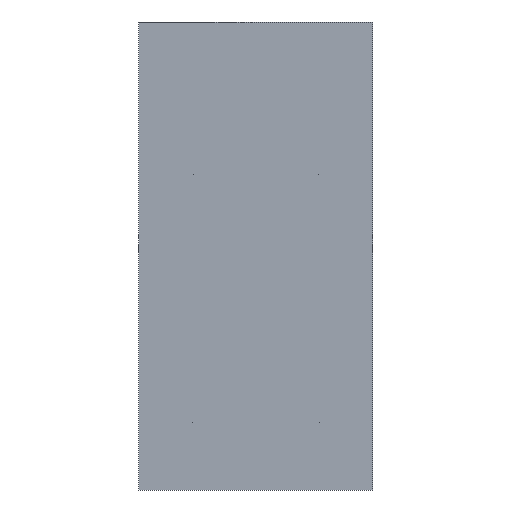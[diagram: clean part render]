
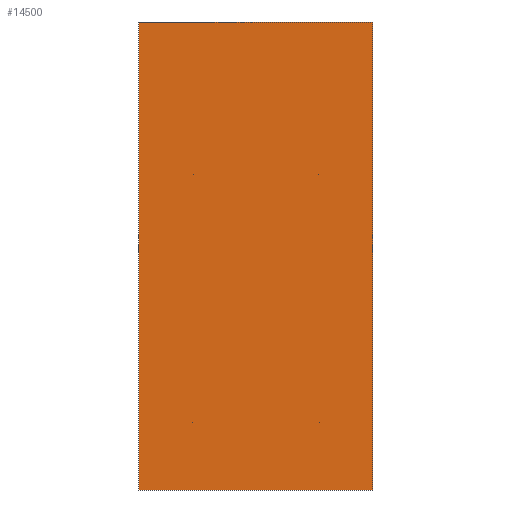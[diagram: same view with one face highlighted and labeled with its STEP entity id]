
A CAD part, front view. The second image highlights one B-rep face of the part: STEP entity #14500.
In plain terms, the highlighted planar face has unit normal (0, -1, 0).
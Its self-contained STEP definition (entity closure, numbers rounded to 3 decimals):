
#875 = CARTESIAN_POINT ( 'NONE',  ( -914.4, 0., 457.2 ) ) ;
#1194 = EDGE_CURVE ( 'NONE', #4532, #1458, #13513, .T. ) ;
#1458 = VERTEX_POINT ( 'NONE', #875 ) ;
#2145 = DIRECTION ( 'NONE',  ( 0., 0., -1. ) ) ;
#3543 = CARTESIAN_POINT ( 'NONE',  ( 914.4, 0., 457.2 ) ) ;
#4139 = VERTEX_POINT ( 'NONE', #17369 ) ;
#4532 = VERTEX_POINT ( 'NONE', #15601 ) ;
#5806 = EDGE_CURVE ( 'NONE', #1458, #14355, #7857, .T. ) ;
#5830 = DIRECTION ( 'NONE',  ( 0., 0., 1. ) ) ;
#6035 = FACE_OUTER_BOUND ( 'NONE', #6391, .T. ) ;
#6391 = EDGE_LOOP ( 'NONE', ( #10266, #15100, #16726, #17957 ) ) ;
#6811 = VECTOR ( 'NONE', #5830, 1000. ) ;
#6957 = CARTESIAN_POINT ( 'NONE',  ( -914.4, 0., 457.2 ) ) ;
#7168 = CARTESIAN_POINT ( 'NONE',  ( 0., 0., 0. ) ) ;
#7175 = LINE ( 'NONE', #3543, #15333 ) ;
#7857 = LINE ( 'NONE', #9478, #11970 ) ;
#7948 = EDGE_CURVE ( 'NONE', #14355, #4139, #7175, .T. ) ;
#8083 = AXIS2_PLACEMENT_3D ( 'NONE', #7168, #8601, #14276 ) ;
#8601 = DIRECTION ( 'NONE',  ( 0., -1., 0. ) ) ;
#9478 = CARTESIAN_POINT ( 'NONE',  ( -914.4, 0., 457.2 ) ) ;
#10266 = ORIENTED_EDGE ( 'NONE', *, *, #7948, .F. ) ;
#10409 = EDGE_CURVE ( 'NONE', #4139, #4532, #11391, .T. ) ;
#11231 = CARTESIAN_POINT ( 'NONE',  ( 914.4, 0., 457.2 ) ) ;
#11391 = LINE ( 'NONE', #14187, #16820 ) ;
#11754 = PLANE ( 'NONE',  #8083 ) ;
#11970 = VECTOR ( 'NONE', #12164, 1000. ) ;
#12164 = DIRECTION ( 'NONE',  ( 1., 0., 0. ) ) ;
#12793 = DIRECTION ( 'NONE',  ( -1., 0., 0. ) ) ;
#13513 = LINE ( 'NONE', #6957, #6811 ) ;
#14187 = CARTESIAN_POINT ( 'NONE',  ( -914.4, 0., -457.2 ) ) ;
#14276 = DIRECTION ( 'NONE',  ( 0., 0., -1. ) ) ;
#14355 = VERTEX_POINT ( 'NONE', #11231 ) ;
#14500 = ADVANCED_FACE ( 'NONE', ( #6035 ), #11754, .T. ) ;
#15100 = ORIENTED_EDGE ( 'NONE', *, *, #5806, .F. ) ;
#15333 = VECTOR ( 'NONE', #2145, 1000. ) ;
#15601 = CARTESIAN_POINT ( 'NONE',  ( -914.4, 0., -457.2 ) ) ;
#16726 = ORIENTED_EDGE ( 'NONE', *, *, #1194, .F. ) ;
#16820 = VECTOR ( 'NONE', #12793, 1000. ) ;
#17369 = CARTESIAN_POINT ( 'NONE',  ( 914.4, 0., -457.2 ) ) ;
#17957 = ORIENTED_EDGE ( 'NONE', *, *, #10409, .F. ) ;
